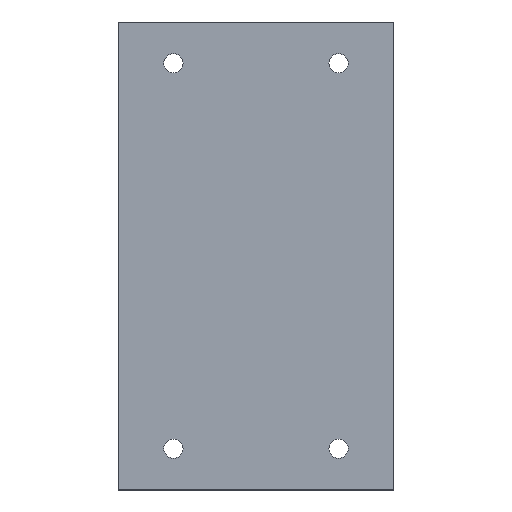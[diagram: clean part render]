
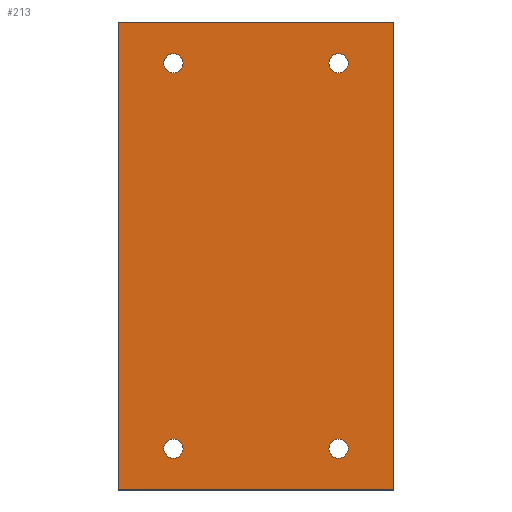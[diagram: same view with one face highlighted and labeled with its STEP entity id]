
A CAD part, top view. The second image highlights one B-rep face of the part: STEP entity #213.
In plain terms, the highlighted planar face has unit normal (0, 0, 1).
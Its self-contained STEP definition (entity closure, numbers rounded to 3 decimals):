
#24 = VERTEX_POINT('',#25);
#25 = CARTESIAN_POINT('',(0.,0.,5.));
#32 = PLANE('',#33);
#33 = AXIS2_PLACEMENT_3D('',#34,#35,#36);
#34 = CARTESIAN_POINT('',(0.,0.,0.));
#35 = DIRECTION('',(1.,0.,0.));
#36 = DIRECTION('',(0.,0.,1.));
#44 = PLANE('',#45);
#45 = AXIS2_PLACEMENT_3D('',#46,#47,#48);
#46 = CARTESIAN_POINT('',(0.,0.,0.));
#47 = DIRECTION('',(0.,1.,0.));
#48 = DIRECTION('',(0.,0.,1.));
#85 = VERTEX_POINT('',#86);
#86 = CARTESIAN_POINT('',(0.,85.,5.));
#100 = PLANE('',#101);
#101 = AXIS2_PLACEMENT_3D('',#102,#103,#104);
#102 = CARTESIAN_POINT('',(0.,85.,0.));
#103 = DIRECTION('',(0.,1.,0.));
#104 = DIRECTION('',(0.,0.,1.));
#112 = EDGE_CURVE('',#24,#85,#113,.T.);
#113 = SURFACE_CURVE('',#114,(#118,#125),.PCURVE_S1.);
#114 = LINE('',#115,#116);
#115 = CARTESIAN_POINT('',(0.,0.,5.));
#116 = VECTOR('',#117,1.);
#117 = DIRECTION('',(0.,1.,0.));
#118 = PCURVE('',#32,#119);
#119 = DEFINITIONAL_REPRESENTATION('',(#120),#124);
#120 = LINE('',#121,#122);
#121 = CARTESIAN_POINT('',(5.,0.));
#122 = VECTOR('',#123,1.);
#123 = DIRECTION('',(0.,-1.));
#124 = ( GEOMETRIC_REPRESENTATION_CONTEXT(2) 
PARAMETRIC_REPRESENTATION_CONTEXT() REPRESENTATION_CONTEXT('2D SPACE',''
  ) );
#125 = PCURVE('',#126,#131);
#126 = PLANE('',#127);
#127 = AXIS2_PLACEMENT_3D('',#128,#129,#130);
#128 = CARTESIAN_POINT('',(0.,0.,5.));
#129 = DIRECTION('',(0.,0.,1.));
#130 = DIRECTION('',(1.,0.,0.));
#131 = DEFINITIONAL_REPRESENTATION('',(#132),#136);
#132 = LINE('',#133,#134);
#133 = CARTESIAN_POINT('',(0.,0.));
#134 = VECTOR('',#135,1.);
#135 = DIRECTION('',(0.,1.));
#136 = ( GEOMETRIC_REPRESENTATION_CONTEXT(2) 
PARAMETRIC_REPRESENTATION_CONTEXT() REPRESENTATION_CONTEXT('2D SPACE',''
  ) );
#165 = EDGE_CURVE('',#24,#166,#168,.T.);
#166 = VERTEX_POINT('',#167);
#167 = CARTESIAN_POINT('',(50.,0.,5.));
#168 = SURFACE_CURVE('',#169,(#173,#180),.PCURVE_S1.);
#169 = LINE('',#170,#171);
#170 = CARTESIAN_POINT('',(0.,0.,5.));
#171 = VECTOR('',#172,1.);
#172 = DIRECTION('',(1.,0.,0.));
#173 = PCURVE('',#44,#174);
#174 = DEFINITIONAL_REPRESENTATION('',(#175),#179);
#175 = LINE('',#176,#177);
#176 = CARTESIAN_POINT('',(5.,0.));
#177 = VECTOR('',#178,1.);
#178 = DIRECTION('',(0.,1.));
#179 = ( GEOMETRIC_REPRESENTATION_CONTEXT(2) 
PARAMETRIC_REPRESENTATION_CONTEXT() REPRESENTATION_CONTEXT('2D SPACE',''
  ) );
#180 = PCURVE('',#126,#181);
#181 = DEFINITIONAL_REPRESENTATION('',(#182),#186);
#182 = LINE('',#183,#184);
#183 = CARTESIAN_POINT('',(0.,0.));
#184 = VECTOR('',#185,1.);
#185 = DIRECTION('',(1.,0.));
#186 = ( GEOMETRIC_REPRESENTATION_CONTEXT(2) 
PARAMETRIC_REPRESENTATION_CONTEXT() REPRESENTATION_CONTEXT('2D SPACE',''
  ) );
#202 = PLANE('',#203);
#203 = AXIS2_PLACEMENT_3D('',#204,#205,#206);
#204 = CARTESIAN_POINT('',(50.,0.,0.));
#205 = DIRECTION('',(1.,0.,0.));
#206 = DIRECTION('',(0.,0.,1.));
#213 = ADVANCED_FACE('',(#214,#262,#293,#324,#355),#126,.T.);
#214 = FACE_BOUND('',#215,.T.);
#215 = EDGE_LOOP('',(#216,#217,#218,#241));
#216 = ORIENTED_EDGE('',*,*,#112,.F.);
#217 = ORIENTED_EDGE('',*,*,#165,.T.);
#218 = ORIENTED_EDGE('',*,*,#219,.T.);
#219 = EDGE_CURVE('',#166,#220,#222,.T.);
#220 = VERTEX_POINT('',#221);
#221 = CARTESIAN_POINT('',(50.,85.,5.));
#222 = SURFACE_CURVE('',#223,(#227,#234),.PCURVE_S1.);
#223 = LINE('',#224,#225);
#224 = CARTESIAN_POINT('',(50.,0.,5.));
#225 = VECTOR('',#226,1.);
#226 = DIRECTION('',(0.,1.,0.));
#227 = PCURVE('',#126,#228);
#228 = DEFINITIONAL_REPRESENTATION('',(#229),#233);
#229 = LINE('',#230,#231);
#230 = CARTESIAN_POINT('',(50.,0.));
#231 = VECTOR('',#232,1.);
#232 = DIRECTION('',(0.,1.));
#233 = ( GEOMETRIC_REPRESENTATION_CONTEXT(2) 
PARAMETRIC_REPRESENTATION_CONTEXT() REPRESENTATION_CONTEXT('2D SPACE',''
  ) );
#234 = PCURVE('',#202,#235);
#235 = DEFINITIONAL_REPRESENTATION('',(#236),#240);
#236 = LINE('',#237,#238);
#237 = CARTESIAN_POINT('',(5.,0.));
#238 = VECTOR('',#239,1.);
#239 = DIRECTION('',(0.,-1.));
#240 = ( GEOMETRIC_REPRESENTATION_CONTEXT(2) 
PARAMETRIC_REPRESENTATION_CONTEXT() REPRESENTATION_CONTEXT('2D SPACE',''
  ) );
#241 = ORIENTED_EDGE('',*,*,#242,.F.);
#242 = EDGE_CURVE('',#85,#220,#243,.T.);
#243 = SURFACE_CURVE('',#244,(#248,#255),.PCURVE_S1.);
#244 = LINE('',#245,#246);
#245 = CARTESIAN_POINT('',(0.,85.,5.));
#246 = VECTOR('',#247,1.);
#247 = DIRECTION('',(1.,0.,0.));
#248 = PCURVE('',#126,#249);
#249 = DEFINITIONAL_REPRESENTATION('',(#250),#254);
#250 = LINE('',#251,#252);
#251 = CARTESIAN_POINT('',(0.,85.));
#252 = VECTOR('',#253,1.);
#253 = DIRECTION('',(1.,0.));
#254 = ( GEOMETRIC_REPRESENTATION_CONTEXT(2) 
PARAMETRIC_REPRESENTATION_CONTEXT() REPRESENTATION_CONTEXT('2D SPACE',''
  ) );
#255 = PCURVE('',#100,#256);
#256 = DEFINITIONAL_REPRESENTATION('',(#257),#261);
#257 = LINE('',#258,#259);
#258 = CARTESIAN_POINT('',(5.,0.));
#259 = VECTOR('',#260,1.);
#260 = DIRECTION('',(0.,1.));
#261 = ( GEOMETRIC_REPRESENTATION_CONTEXT(2) 
PARAMETRIC_REPRESENTATION_CONTEXT() REPRESENTATION_CONTEXT('2D SPACE',''
  ) );
#262 = FACE_BOUND('',#263,.T.);
#263 = EDGE_LOOP('',(#264));
#264 = ORIENTED_EDGE('',*,*,#265,.F.);
#265 = EDGE_CURVE('',#266,#266,#268,.T.);
#266 = VERTEX_POINT('',#267);
#267 = CARTESIAN_POINT('',(11.75,7.5,5.));
#268 = SURFACE_CURVE('',#269,(#274,#281),.PCURVE_S1.);
#269 = CIRCLE('',#270,1.75);
#270 = AXIS2_PLACEMENT_3D('',#271,#272,#273);
#271 = CARTESIAN_POINT('',(10.,7.5,5.));
#272 = DIRECTION('',(0.,0.,1.));
#273 = DIRECTION('',(1.,0.,-0.));
#274 = PCURVE('',#126,#275);
#275 = DEFINITIONAL_REPRESENTATION('',(#276),#280);
#276 = CIRCLE('',#277,1.75);
#277 = AXIS2_PLACEMENT_2D('',#278,#279);
#278 = CARTESIAN_POINT('',(10.,7.5));
#279 = DIRECTION('',(1.,0.));
#280 = ( GEOMETRIC_REPRESENTATION_CONTEXT(2) 
PARAMETRIC_REPRESENTATION_CONTEXT() REPRESENTATION_CONTEXT('2D SPACE',''
  ) );
#281 = PCURVE('',#282,#287);
#282 = CYLINDRICAL_SURFACE('',#283,1.75);
#283 = AXIS2_PLACEMENT_3D('',#284,#285,#286);
#284 = CARTESIAN_POINT('',(10.,7.5,-1.));
#285 = DIRECTION('',(0.,0.,1.));
#286 = DIRECTION('',(1.,0.,-0.));
#287 = DEFINITIONAL_REPRESENTATION('',(#288),#292);
#288 = LINE('',#289,#290);
#289 = CARTESIAN_POINT('',(0.,6.));
#290 = VECTOR('',#291,1.);
#291 = DIRECTION('',(1.,0.));
#292 = ( GEOMETRIC_REPRESENTATION_CONTEXT(2) 
PARAMETRIC_REPRESENTATION_CONTEXT() REPRESENTATION_CONTEXT('2D SPACE',''
  ) );
#293 = FACE_BOUND('',#294,.T.);
#294 = EDGE_LOOP('',(#295));
#295 = ORIENTED_EDGE('',*,*,#296,.F.);
#296 = EDGE_CURVE('',#297,#297,#299,.T.);
#297 = VERTEX_POINT('',#298);
#298 = CARTESIAN_POINT('',(41.75,7.5,5.));
#299 = SURFACE_CURVE('',#300,(#305,#312),.PCURVE_S1.);
#300 = CIRCLE('',#301,1.75);
#301 = AXIS2_PLACEMENT_3D('',#302,#303,#304);
#302 = CARTESIAN_POINT('',(40.,7.5,5.));
#303 = DIRECTION('',(0.,0.,1.));
#304 = DIRECTION('',(1.,0.,-0.));
#305 = PCURVE('',#126,#306);
#306 = DEFINITIONAL_REPRESENTATION('',(#307),#311);
#307 = CIRCLE('',#308,1.75);
#308 = AXIS2_PLACEMENT_2D('',#309,#310);
#309 = CARTESIAN_POINT('',(40.,7.5));
#310 = DIRECTION('',(1.,0.));
#311 = ( GEOMETRIC_REPRESENTATION_CONTEXT(2) 
PARAMETRIC_REPRESENTATION_CONTEXT() REPRESENTATION_CONTEXT('2D SPACE',''
  ) );
#312 = PCURVE('',#313,#318);
#313 = CYLINDRICAL_SURFACE('',#314,1.75);
#314 = AXIS2_PLACEMENT_3D('',#315,#316,#317);
#315 = CARTESIAN_POINT('',(40.,7.5,-1.));
#316 = DIRECTION('',(0.,0.,1.));
#317 = DIRECTION('',(1.,0.,-0.));
#318 = DEFINITIONAL_REPRESENTATION('',(#319),#323);
#319 = LINE('',#320,#321);
#320 = CARTESIAN_POINT('',(0.,6.));
#321 = VECTOR('',#322,1.);
#322 = DIRECTION('',(1.,0.));
#323 = ( GEOMETRIC_REPRESENTATION_CONTEXT(2) 
PARAMETRIC_REPRESENTATION_CONTEXT() REPRESENTATION_CONTEXT('2D SPACE',''
  ) );
#324 = FACE_BOUND('',#325,.T.);
#325 = EDGE_LOOP('',(#326));
#326 = ORIENTED_EDGE('',*,*,#327,.F.);
#327 = EDGE_CURVE('',#328,#328,#330,.T.);
#328 = VERTEX_POINT('',#329);
#329 = CARTESIAN_POINT('',(11.75,77.5,5.));
#330 = SURFACE_CURVE('',#331,(#336,#343),.PCURVE_S1.);
#331 = CIRCLE('',#332,1.75);
#332 = AXIS2_PLACEMENT_3D('',#333,#334,#335);
#333 = CARTESIAN_POINT('',(10.,77.5,5.));
#334 = DIRECTION('',(0.,0.,1.));
#335 = DIRECTION('',(1.,0.,-0.));
#336 = PCURVE('',#126,#337);
#337 = DEFINITIONAL_REPRESENTATION('',(#338),#342);
#338 = CIRCLE('',#339,1.75);
#339 = AXIS2_PLACEMENT_2D('',#340,#341);
#340 = CARTESIAN_POINT('',(10.,77.5));
#341 = DIRECTION('',(1.,0.));
#342 = ( GEOMETRIC_REPRESENTATION_CONTEXT(2) 
PARAMETRIC_REPRESENTATION_CONTEXT() REPRESENTATION_CONTEXT('2D SPACE',''
  ) );
#343 = PCURVE('',#344,#349);
#344 = CYLINDRICAL_SURFACE('',#345,1.75);
#345 = AXIS2_PLACEMENT_3D('',#346,#347,#348);
#346 = CARTESIAN_POINT('',(10.,77.5,-1.));
#347 = DIRECTION('',(0.,0.,1.));
#348 = DIRECTION('',(1.,0.,-0.));
#349 = DEFINITIONAL_REPRESENTATION('',(#350),#354);
#350 = LINE('',#351,#352);
#351 = CARTESIAN_POINT('',(0.,6.));
#352 = VECTOR('',#353,1.);
#353 = DIRECTION('',(1.,0.));
#354 = ( GEOMETRIC_REPRESENTATION_CONTEXT(2) 
PARAMETRIC_REPRESENTATION_CONTEXT() REPRESENTATION_CONTEXT('2D SPACE',''
  ) );
#355 = FACE_BOUND('',#356,.T.);
#356 = EDGE_LOOP('',(#357));
#357 = ORIENTED_EDGE('',*,*,#358,.F.);
#358 = EDGE_CURVE('',#359,#359,#361,.T.);
#359 = VERTEX_POINT('',#360);
#360 = CARTESIAN_POINT('',(41.75,77.5,5.));
#361 = SURFACE_CURVE('',#362,(#367,#374),.PCURVE_S1.);
#362 = CIRCLE('',#363,1.75);
#363 = AXIS2_PLACEMENT_3D('',#364,#365,#366);
#364 = CARTESIAN_POINT('',(40.,77.5,5.));
#365 = DIRECTION('',(0.,0.,1.));
#366 = DIRECTION('',(1.,0.,-0.));
#367 = PCURVE('',#126,#368);
#368 = DEFINITIONAL_REPRESENTATION('',(#369),#373);
#369 = CIRCLE('',#370,1.75);
#370 = AXIS2_PLACEMENT_2D('',#371,#372);
#371 = CARTESIAN_POINT('',(40.,77.5));
#372 = DIRECTION('',(1.,0.));
#373 = ( GEOMETRIC_REPRESENTATION_CONTEXT(2) 
PARAMETRIC_REPRESENTATION_CONTEXT() REPRESENTATION_CONTEXT('2D SPACE',''
  ) );
#374 = PCURVE('',#375,#380);
#375 = CYLINDRICAL_SURFACE('',#376,1.75);
#376 = AXIS2_PLACEMENT_3D('',#377,#378,#379);
#377 = CARTESIAN_POINT('',(40.,77.5,-1.));
#378 = DIRECTION('',(0.,0.,1.));
#379 = DIRECTION('',(1.,0.,-0.));
#380 = DEFINITIONAL_REPRESENTATION('',(#381),#385);
#381 = LINE('',#382,#383);
#382 = CARTESIAN_POINT('',(0.,6.));
#383 = VECTOR('',#384,1.);
#384 = DIRECTION('',(1.,0.));
#385 = ( GEOMETRIC_REPRESENTATION_CONTEXT(2) 
PARAMETRIC_REPRESENTATION_CONTEXT() REPRESENTATION_CONTEXT('2D SPACE',''
  ) );
